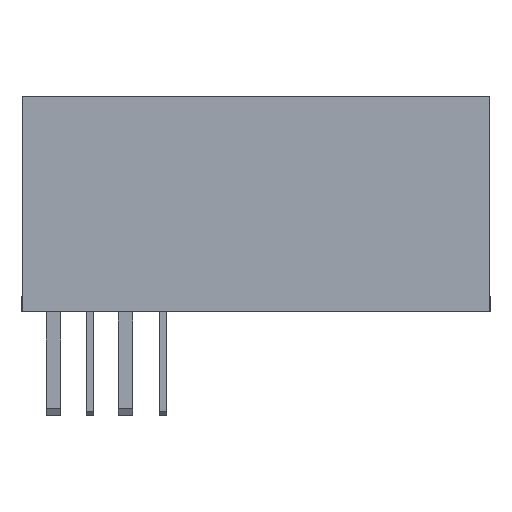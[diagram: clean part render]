
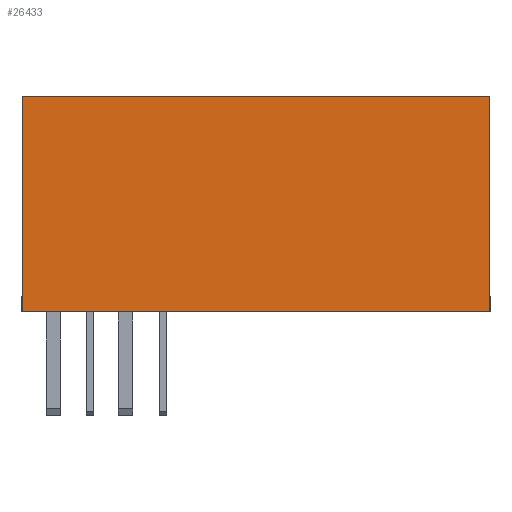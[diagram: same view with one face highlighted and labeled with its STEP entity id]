
A CAD part, left-side view. The second image highlights one B-rep face of the part: STEP entity #26433.
In plain terms, the highlighted planar face has unit normal (-1, 0, 0).
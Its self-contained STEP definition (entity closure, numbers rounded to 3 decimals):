
#641=DIRECTION('',(0.,0.,1.));
#642=VECTOR('',#641,7.49);
#643=CARTESIAN_POINT('',(-30.453,8.232,-3.745));
#644=LINE('',#643,#642);
#7773=DIRECTION('',(0.,-1.,0.));
#7774=VECTOR('',#7773,16.28);
#7775=CARTESIAN_POINT('',(-30.453,8.232,-3.745));
#7776=LINE('',#7775,#7774);
#7777=DIRECTION('',(0.,0.,1.));
#7778=VECTOR('',#7777,7.49);
#7779=CARTESIAN_POINT('',(-30.453,-8.048,-3.745));
#7780=LINE('',#7779,#7778);
#7801=DIRECTION('',(0.,-1.,0.));
#7802=VECTOR('',#7801,16.28);
#7803=CARTESIAN_POINT('',(-30.453,8.232,3.745));
#7804=LINE('',#7803,#7802);
#12642=CARTESIAN_POINT('',(-30.453,8.232,-3.745));
#12644=VERTEX_POINT('',#12642);
#12671=CARTESIAN_POINT('',(-30.453,-8.048,-3.745));
#12672=VERTEX_POINT('',#12671);
#13659=CARTESIAN_POINT('',(-30.453,-8.048,3.745));
#13660=VERTEX_POINT('',#13659);
#14101=CARTESIAN_POINT('',(-30.453,8.232,3.745));
#14102=VERTEX_POINT('',#14101);
#26421=CARTESIAN_POINT('',(-30.453,-8.048,3.745));
#26422=DIRECTION('',(-1.,0.,0.));
#26423=DIRECTION('',(0.,0.,1.));
#26424=AXIS2_PLACEMENT_3D('',#26421,#26422,#26423);
#26425=PLANE('',#26424);
#26426=ORIENTED_EDGE('',*,*,#16332,.F.);
#26427=ORIENTED_EDGE('',*,*,#17300,.T.);
#26429=ORIENTED_EDGE('',*,*,#26428,.T.);
#26430=ORIENTED_EDGE('',*,*,#17563,.F.);
#26431=EDGE_LOOP('',(#26426,#26427,#26429,#26430));
#26432=FACE_OUTER_BOUND('',#26431,.F.);
#26433=ADVANCED_FACE('',(#26432),#26425,.T.);
#16332=EDGE_CURVE('',#12644,#12672,#7776,.T.);
#17300=EDGE_CURVE('',#12644,#14102,#644,.T.);
#17563=EDGE_CURVE('',#12672,#13660,#7780,.T.);
#26428=EDGE_CURVE('',#14102,#13660,#7804,.T.);
